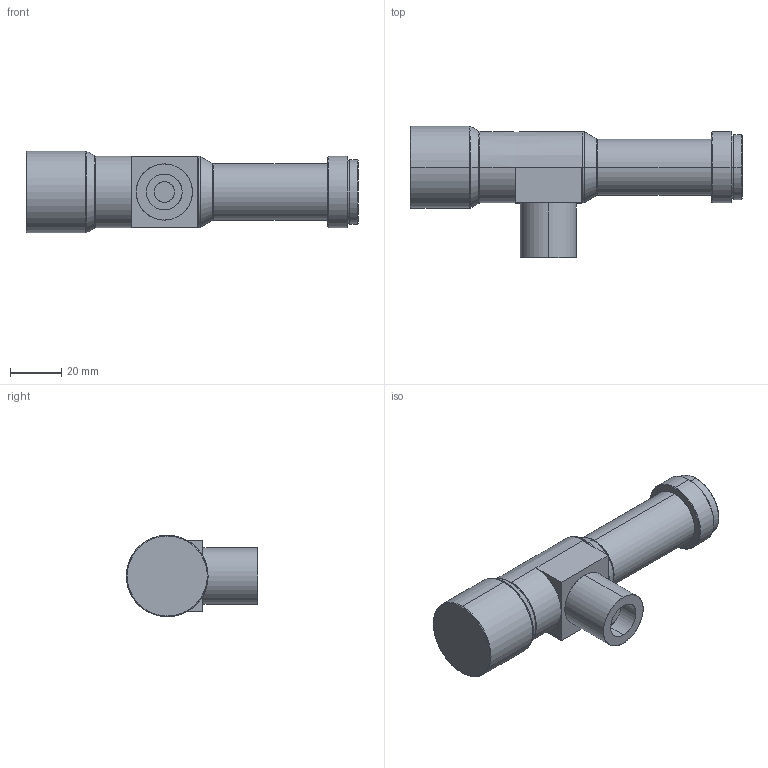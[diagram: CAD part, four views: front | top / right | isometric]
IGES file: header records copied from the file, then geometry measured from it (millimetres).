
Start section: SolidWorks IGES file using analytic representation for surfaces
Global section: file name: C:\Users\16255\Desktop\WWH15-108CTV3.IGS; native system: SolidWorks 2017; preprocessor: SolidWorks 2017; author: 16255; date: 210909.155225; units: millimetre
Bounding box: 130.1 x 51.4 x 32 mm (x, y, z)
Surface area: 15223 mm2 (no closed solid volume)
Topology: 0 solids, 0 shells, 54 faces, 728 edges, 728 vertices
Faces by surface type: revolution 31, bspline 23
